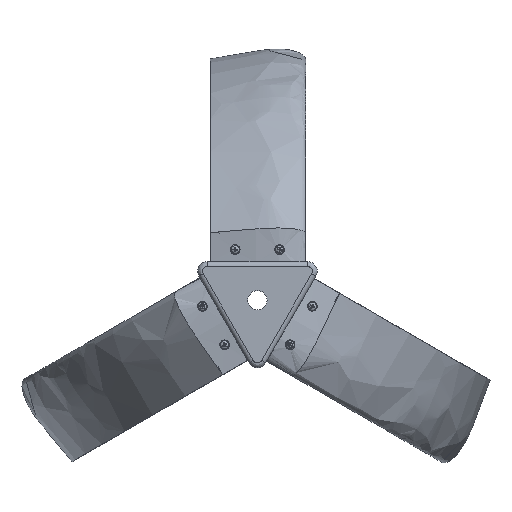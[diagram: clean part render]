
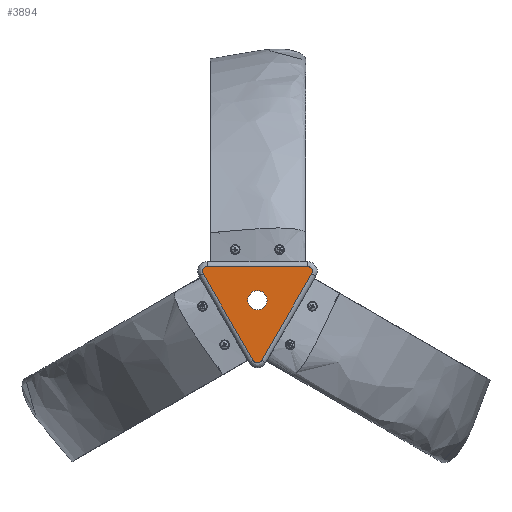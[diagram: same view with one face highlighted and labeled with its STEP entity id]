
A CAD part, front view. The second image highlights one B-rep face of the part: STEP entity #3894.
In plain terms, the highlighted planar face has unit normal (0, -1, 0) as drawn and (0, 1, 0) by its records, which use the part's own axes.
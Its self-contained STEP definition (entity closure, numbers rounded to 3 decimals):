
#385=FACE_BOUND('',#878,.T.);
#484=PLANE('',#4384);
#627=FACE_OUTER_BOUND('',#877,.T.);
#877=EDGE_LOOP('',(#3075,#3076,#3077,#3078,#3079,#3080));
#878=EDGE_LOOP('',(#3081));
#1134=CIRCLE('',#4374,5.);
#1137=CIRCLE('',#4378,5.);
#1140=CIRCLE('',#4382,5.);
#1141=CIRCLE('',#4385,10.);
#1371=LINE('',#10650,#1579);
#1372=LINE('',#10672,#1580);
#1373=LINE('',#10692,#1581);
#1579=VECTOR('',#5156,10.);
#1580=VECTOR('',#5165,10.);
#1581=VECTOR('',#5172,10.);
#1839=VERTEX_POINT('',#10642);
#1840=VERTEX_POINT('',#10644);
#1841=VERTEX_POINT('',#10648);
#1842=VERTEX_POINT('',#10666);
#1843=VERTEX_POINT('',#10670);
#1844=VERTEX_POINT('',#10688);
#1845=VERTEX_POINT('',#10694);
#2280=EDGE_CURVE('',#1839,#1840,#1134,.T.);
#2282=EDGE_CURVE('',#1840,#1841,#1371,.T.);
#2284=EDGE_CURVE('',#1841,#1842,#1137,.T.);
#2286=EDGE_CURVE('',#1842,#1843,#1372,.T.);
#2288=EDGE_CURVE('',#1843,#1844,#1140,.T.);
#2289=EDGE_CURVE('',#1844,#1839,#1373,.T.);
#2290=EDGE_CURVE('',#1845,#1845,#1141,.T.);
#3075=ORIENTED_EDGE('',*,*,#2280,.T.);
#3076=ORIENTED_EDGE('',*,*,#2282,.T.);
#3077=ORIENTED_EDGE('',*,*,#2284,.T.);
#3078=ORIENTED_EDGE('',*,*,#2286,.T.);
#3079=ORIENTED_EDGE('',*,*,#2288,.T.);
#3080=ORIENTED_EDGE('',*,*,#2289,.T.);
#3081=ORIENTED_EDGE('',*,*,#2290,.F.);
#3894=ADVANCED_FACE('',(#627,#385),#484,.F.);
#4374=AXIS2_PLACEMENT_3D('',#10646,#5150,#5151);
#4378=AXIS2_PLACEMENT_3D('',#10668,#5159,#5160);
#4382=AXIS2_PLACEMENT_3D('',#10690,#5168,#5169);
#4384=AXIS2_PLACEMENT_3D('',#10693,#5173,#5174);
#4385=AXIS2_PLACEMENT_3D('',#10695,#5175,#5176);
#5150=DIRECTION('center_axis',(0.,1.,0.));
#5151=DIRECTION('ref_axis',(0.866,0.,-0.5));
#5156=DIRECTION('',(-1.,0.,0.));
#5159=DIRECTION('center_axis',(0.,1.,0.));
#5160=DIRECTION('ref_axis',(-0.866,0.,-0.5));
#5165=DIRECTION('',(0.5,0.,0.866));
#5168=DIRECTION('center_axis',(0.,1.,0.));
#5169=DIRECTION('ref_axis',(0.,0.,1.));
#5172=DIRECTION('',(0.5,0.,-0.866));
#5173=DIRECTION('center_axis',(0.,-1.,0.));
#5174=DIRECTION('ref_axis',(0.,0.,-1.));
#5175=DIRECTION('center_axis',(0.,1.,0.));
#5176=DIRECTION('ref_axis',(1.,0.,0.));
#10642=CARTESIAN_POINT('',(56.292,18.,-27.5));
#10644=CARTESIAN_POINT('',(51.962,18.,-35.));
#10646=CARTESIAN_POINT('Origin',(51.962,18.,-30.));
#10648=CARTESIAN_POINT('',(-51.962,18.,-35.));
#10650=CARTESIAN_POINT('',(-34.641,18.,-35.));
#10666=CARTESIAN_POINT('',(-56.292,18.,-27.5));
#10668=CARTESIAN_POINT('Origin',(-51.962,18.,-30.));
#10670=CARTESIAN_POINT('',(-4.33,18.,62.5));
#10672=CARTESIAN_POINT('',(-8.66,18.,55.));
#10688=CARTESIAN_POINT('',(4.33,18.,62.5));
#10690=CARTESIAN_POINT('Origin',(0.,18.,60.));
#10692=CARTESIAN_POINT('',(43.301,18.,-5.));
#10693=CARTESIAN_POINT('Origin',(0.,18.,20.));
#10694=CARTESIAN_POINT('',(-10.,18.,0.));
#10695=CARTESIAN_POINT('Origin',(0.,18.,0.));
